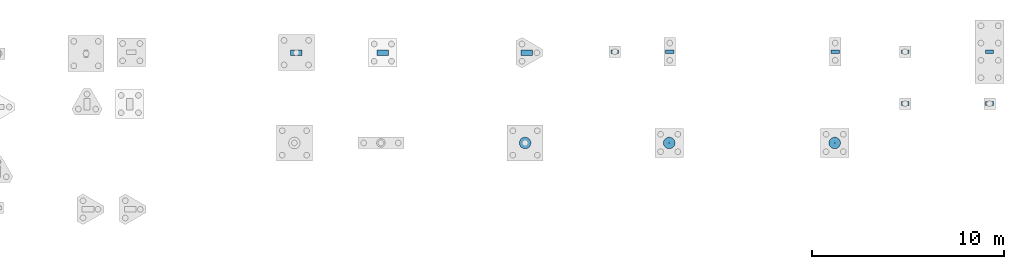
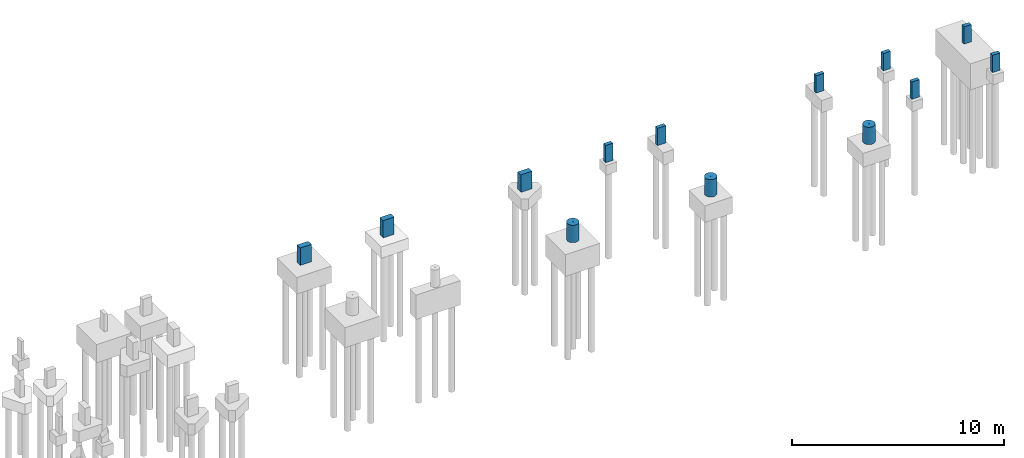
# One storey, part 2 of 3: 13 columns.
"""IFC2X3 building model written with IfcOpenShell, lengths in centimetres."""

from ifc_helpers import new_model, si_unit, derived_unit, frame, origin, origin_with_axes, origin_2d_with_axis, place, context, project, spatial, rectangle, hollow_circle, extrude, material, element, save


model = new_model("IFC2X3")

# Units and contexts
model_context = context("Model", 3, precision=1e-05, world=origin_with_axes(), identifier="Body")
ifc_project = project(units=[si_unit("LENGTHUNIT", "METRE", prefix="CENTI"), si_unit("VOLUMEUNIT", "CUBIC_METRE"), si_unit("AREAUNIT", "SQUARE_METRE"), si_unit("POWERUNIT", "WATT"), si_unit("LUMINOUSFLUXUNIT", "LUMEN"), si_unit("ELECTRICCURRENTUNIT", "AMPERE"), si_unit("PRESSUREUNIT", "PASCAL", prefix="KILO"), si_unit("MASSUNIT", "GRAM", prefix="KILO"), si_unit("PLANEANGLEUNIT", "RADIAN"), derived_unit("VOLUMETRICFLOWRATEUNIT", [(si_unit("LENGTHUNIT", "METRE"), 3), (si_unit("TIMEUNIT", "SECOND"), -1)])], contexts=[model_context])

# Site, building, storey
site_placement = place(None, origin_with_axes())
site = spatial("IfcSite", under=ifc_project, at=site_placement)
building_placement = place(site_placement, origin())
building = spatial("IfcBuilding", under=site, at=building_placement)
storey_placement = place(building_placement, origin_with_axes())
storey = spatial("IfcBuildingStorey", under=building, at=storey_placement, Name="01. Estacionamento", CompositionType="ELEMENT", Elevation=0.0)

# Columns
ifc_material = material(Name="Concreto")
column_1_placement = place(storey_placement, frame((1848.54, -289.11, 0.0), z_axis=(0.0, 0.0, 1.0), x_axis=(1.0, 0.0, 0.0)))
element("IfcColumn", 1, at=column_1_placement, inside=storey, material=ifc_material, Name="P10", context=model_context, shape_type="SolidModel", body=[
    extrude(rectangle(XDim=30.0, YDim=60.0, at=origin_2d_with_axis()), frame((0.0, 0.0, -100.0), z_axis=(0.0, 0.0, 1.0), x_axis=(0.0, -1.0, 0.0)), (0.0, 0.0, 1.0), 100.0),
])
column_2_placement = place(storey_placement, frame((2305.54, -284.11, 0.0), z_axis=(0.0, 0.0, 1.0), x_axis=(1.0, 0.0, 0.0)))
element("IfcColumn", 2, at=column_2_placement, inside=storey, material=ifc_material, Name="P11", context=model_context, shape_type="SolidModel", body=[
    extrude(rectangle(XDim=20.0, YDim=40.0, at=origin_2d_with_axis()), frame((0.0, 0.0, -100.0), z_axis=(0.0, 0.0, 1.0), x_axis=(0.0, -1.0, 0.0)), (0.0, 0.0, 1.0), 100.0),
])
for number, where, z_axis, x_axis, name in (
    (3, (2591.04, -284.11, 0.0), (0.0, 0.0, 1.0), (1.0, 0.0, 0.0), "P12"),
    (4, (3452.04, -284.11, 0.0), (0.0, 0.0, 1.0), (1.0, 0.0, 0.0), "P13"),
):
    element("IfcColumn", number, at=place(storey_placement, frame(where, z_axis=z_axis, x_axis=x_axis)), inside=storey, material=ifc_material, Name=name, context=model_context, shape_type="SolidModel", body=[
        extrude(rectangle(XDim=20.0, YDim=45.0, at=origin_2d_with_axis()), frame((0.0, 0.0, -100.0), z_axis=(0.0, 0.0, 1.0), x_axis=(0.0, -1.0, 0.0)), (0.0, 0.0, 1.0), 100.0),
    ])
for number, where, z_axis, x_axis, name in (
    (5, (3816.04, -284.11, 0.0), (0.0, 0.0, 1.0), (1.0, 0.0, 0.0), "P14"),
    (6, (4255.54, -284.11, 0.0), (0.0, 0.0, 1.0), (1.0, 0.0, 0.0), "P15"),
    (7, (3816.04, -554.11, 0.0), (0.0, 0.0, 1.0), (1.0, 0.0, 0.0), "P22"),
    (8, (4255.54, -554.11, 0.0), (0.0, 0.0, 1.0), (1.0, 0.0, 0.0), "P23"),
):
    element("IfcColumn", number, at=place(storey_placement, frame(where, z_axis=z_axis, x_axis=x_axis)), inside=storey, material=ifc_material, Name=name, context=model_context, shape_type="SolidModel", body=[
        extrude(rectangle(XDim=20.0, YDim=40.0, at=origin_2d_with_axis()), frame((0.0, 0.0, -100.0), z_axis=(0.0, 0.0, 1.0), x_axis=(0.0, -1.0, 0.0)), (0.0, 0.0, 1.0), 100.0),
    ])
for number, where, z_axis, x_axis, name in (
    (9, (1838.67, -758.96, 0.0), (0.0, 0.0, 1.0), (1.0, 0.0, 0.0), "P30"),
    (10, (2588.67, -758.96, 0.0), (0.0, 0.0, 1.0), (1.0, 0.0, 0.0), "P31"),
    (11, (3449.67, -758.96, 0.0), (0.0, 0.0, 1.0), (1.0, 0.0, 0.0), "P32"),
):
    element("IfcColumn", number, at=place(storey_placement, frame(where, z_axis=z_axis, x_axis=x_axis)), inside=storey, material=ifc_material, Name=name, context=model_context, shape_type="SolidModel", body=[
        extrude(hollow_circle(Radius=30.0, WallThickness=27.5, at=origin_2d_with_axis()), frame((0.0, 0.0, -100.0), z_axis=(0.0, 0.0, 1.0), x_axis=(1.0, 0.0, 0.0)), (0.0, 0.0, 1.0), 100.0),
    ])
for number, where, z_axis, x_axis, name in (
    (12, (648.54, -289.11, 0.0), (0.0, 0.0, 1.0), (1.0, 0.0, 0.0), "P8"),
    (13, (1098.54, -289.11, 0.0), (0.0, 0.0, 1.0), (1.0, 0.0, 0.0), "P9"),
):
    element("IfcColumn", number, at=place(storey_placement, frame(where, z_axis=z_axis, x_axis=x_axis)), inside=storey, material=ifc_material, Name=name, context=model_context, shape_type="SolidModel", body=[
        extrude(rectangle(XDim=30.0, YDim=60.0, at=origin_2d_with_axis()), frame((0.0, 0.0, -100.0), z_axis=(0.0, 0.0, 1.0), x_axis=(0.0, -1.0, 0.0)), (0.0, 0.0, 1.0), 100.0),
    ])

save(model, "model.ifc")
